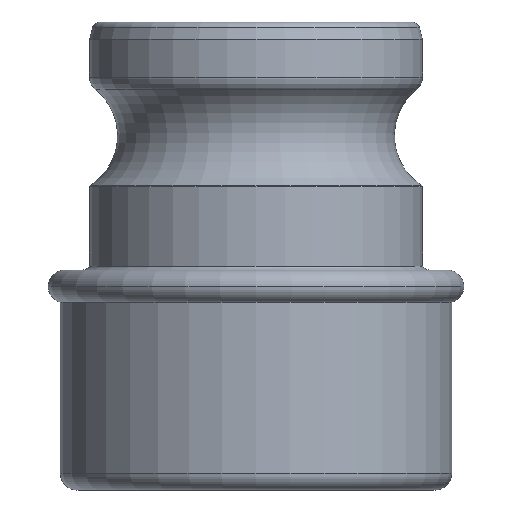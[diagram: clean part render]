
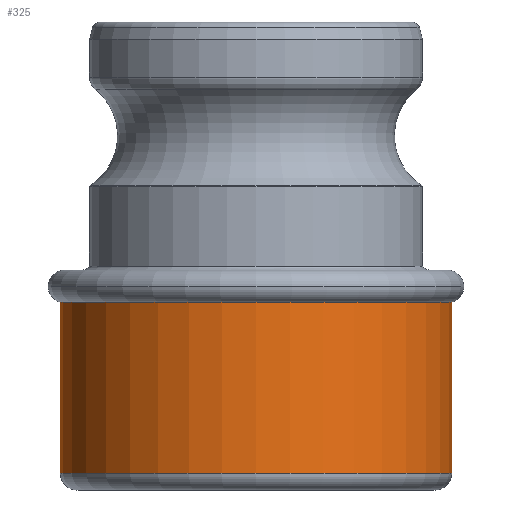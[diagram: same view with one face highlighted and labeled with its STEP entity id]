
A CAD part, front view. The second image highlights one B-rep face of the part: STEP entity #325.
In plain terms, the highlighted cylindrical face has radius 37.084 mm (diameter 74.168 mm), a full revolution.
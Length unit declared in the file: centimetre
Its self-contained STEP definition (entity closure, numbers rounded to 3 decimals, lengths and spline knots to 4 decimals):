
#114=CYLINDRICAL_SURFACE('',#360,3.7084);
#129=VERTEX_POINT('',#490);
#130=VERTEX_POINT('',#493);
#151=CIRCLE('',#359,3.7084);
#152=CIRCLE('',#361,3.7084);
#173=EDGE_CURVE('',#129,#129,#151,.T.);
#174=EDGE_CURVE('',#130,#130,#152,.T.);
#203=ORIENTED_EDGE('',*,*,#174,.F.);
#204=ORIENTED_EDGE('',*,*,#173,.F.);
#247=EDGE_LOOP('',(#203));
#248=EDGE_LOOP('',(#204));
#291=FACE_BOUND('',#247,.T.);
#292=FACE_BOUND('',#248,.T.);
#325=ADVANCED_FACE('',(#291,#292),#114,.T.);
#359=AXIS2_PLACEMENT_3D('',#489,#418,#419);
#360=AXIS2_PLACEMENT_3D('',#491,#420,#421);
#361=AXIS2_PLACEMENT_3D('',#492,#422,#423);
#418=DIRECTION('',(0.,0.,-1.));
#419=DIRECTION('',(0.,-3.708,0.));
#420=DIRECTION('',(0.,0.,1.));
#421=DIRECTION('',(0.,3.708,0.));
#422=DIRECTION('',(0.,0.,1.));
#423=DIRECTION('',(0.,3.708,0.));
#489=CARTESIAN_POINT('',(0.,0.,-8.5471));
#490=CARTESIAN_POINT('',(0.,3.7084,-8.5471));
#491=CARTESIAN_POINT('',(0.,0.,-7.0873));
#492=CARTESIAN_POINT('',(0.,0.,-5.3101));
#493=CARTESIAN_POINT('',(0.,3.7084,-5.3101));
